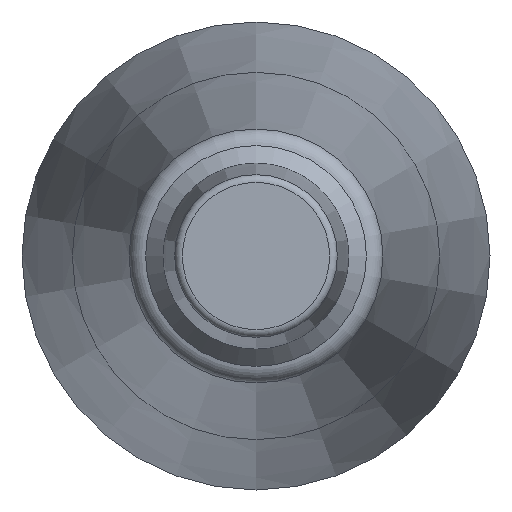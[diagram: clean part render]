
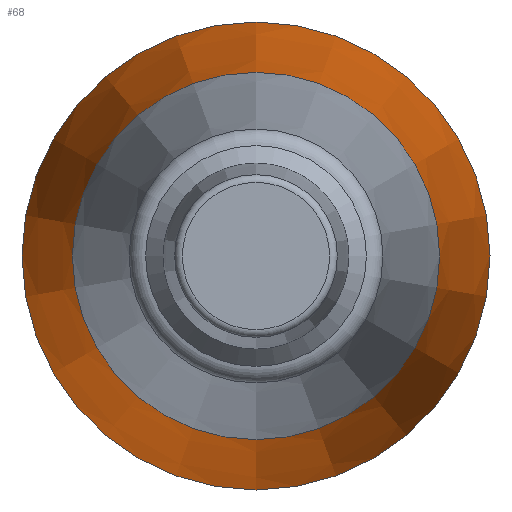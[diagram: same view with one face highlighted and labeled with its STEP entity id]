
A CAD part, left-side view. The second image highlights one B-rep face of the part: STEP entity #68.
In plain terms, the highlighted conical face has half-angle 6.193 degrees and reference radius 194.361 mm.
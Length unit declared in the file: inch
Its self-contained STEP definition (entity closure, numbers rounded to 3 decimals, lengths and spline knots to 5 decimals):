
#48=CONICAL_SURFACE('',#145,7.652,6.193);
#57=FACE_BOUND('',#85,.T.);
#58=FACE_BOUND('',#86,.T.);
#68=ADVANCED_FACE('',(#57,#58),#48,.T.);
#85=EDGE_LOOP('',(#101));
#86=EDGE_LOOP('',(#102));
#101=ORIENTED_EDGE('',*,*,#122,.T.);
#102=ORIENTED_EDGE('',*,*,#116,.F.);
#108=VERTEX_POINT('',#188);
#114=VERTEX_POINT('',#204);
#116=EDGE_CURVE('',#108,#108,#124,.T.);
#122=EDGE_CURVE('',#114,#114,#130,.T.);
#124=CIRCLE('',#133,7.652);
#130=CIRCLE('',#143,6.00716);
#133=AXIS2_PLACEMENT_3D('',#187,#152,#153);
#143=AXIS2_PLACEMENT_3D('',#203,#172,#173);
#145=AXIS2_PLACEMENT_3D('',#206,#176,#177);
#152=DIRECTION('',(1.,0.,0.));
#153=DIRECTION('',(0.,0.,-1.));
#172=DIRECTION('',(1.,0.,0.));
#173=DIRECTION('',(0.,0.,-1.));
#176=DIRECTION('',(1.,0.,0.));
#177=DIRECTION('',(0.,0.,-1.));
#187=CARTESIAN_POINT('',(282.74968,0.,-0.52974));
#188=CARTESIAN_POINT('',(282.74968,0.,-8.18174));
#203=CARTESIAN_POINT('',(267.5912,0.,-0.52974));
#204=CARTESIAN_POINT('',(267.5912,0.,-6.5369));
#206=CARTESIAN_POINT('',(282.74968,0.,-0.52974));
